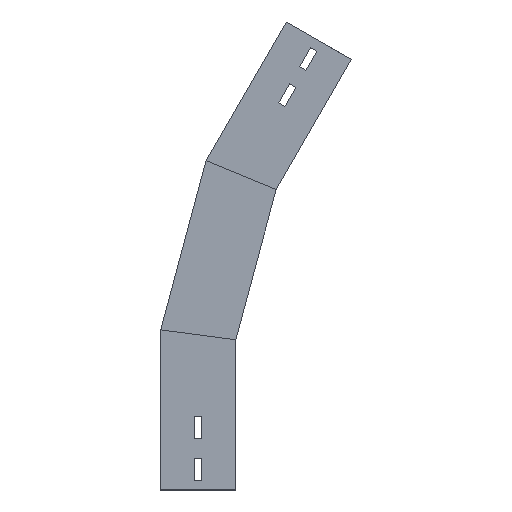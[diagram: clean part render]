
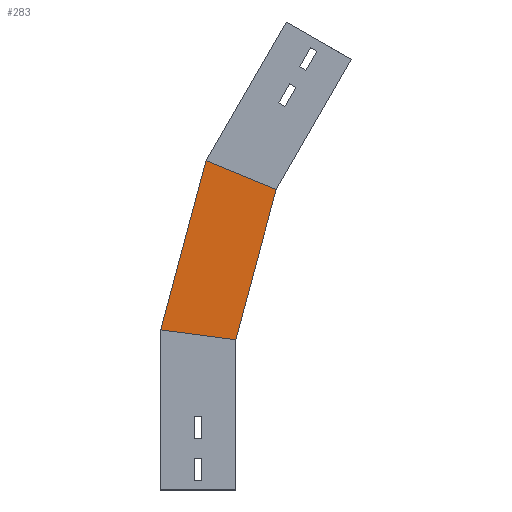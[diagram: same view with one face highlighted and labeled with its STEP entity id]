
A CAD part, left-side view. The second image highlights one B-rep face of the part: STEP entity #283.
In plain terms, the highlighted planar face has unit normal (-1, 0, 0) as drawn and (1, 0, 0) by its records, which use the part's own axes.
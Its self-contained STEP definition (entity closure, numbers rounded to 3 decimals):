
#3 = DIRECTION ( 'NONE',  ( 1., 0., 0. ) ) ;
#12 = PLANE ( 'NONE',  #602 ) ;
#85 = FACE_OUTER_BOUND ( 'NONE', #204, .T. ) ;
#165 = CARTESIAN_POINT ( 'NONE',  ( 0., -40.117, 299.719 ) ) ;
#182 = DIRECTION ( 'NONE',  ( 0., -0.924, -0.383 ) ) ;
#204 = EDGE_LOOP ( 'NONE', ( #1233, #959, #1413, #1138 ) ) ;
#236 = VECTOR ( 'NONE', #389, 1000. ) ;
#283 = ADVANCED_FACE ( 'NONE', ( #85 ), #12, .T. ) ;
#301 = CARTESIAN_POINT ( 'NONE',  ( 0., -60.13, 291.429 ) ) ;
#384 = VECTOR ( 'NONE', #539, 1000. ) ;
#389 = DIRECTION ( 'NONE',  ( 0., -0.991, -0.131 ) ) ;
#498 = CARTESIAN_POINT ( 'NONE',  ( 0., 0., 150. ) ) ;
#520 = VERTEX_POINT ( 'NONE', #165 ) ;
#539 = DIRECTION ( 'NONE',  ( 0., -0.259, 0.966 ) ) ;
#544 = EDGE_CURVE ( 'NONE', #667, #562, #733, .T. ) ;
#562 = VERTEX_POINT ( 'NONE', #498 ) ;
#602 = AXIS2_PLACEMENT_3D ( 'NONE', #1061, #3, #1161 ) ;
#667 = VERTEX_POINT ( 'NONE', #990 ) ;
#670 = CARTESIAN_POINT ( 'NONE',  ( 0., 75.281, 158.824 ) ) ;
#676 = EDGE_CURVE ( 'NONE', #667, #693, #1229, .T. ) ;
#693 = VERTEX_POINT ( 'NONE', #1110 ) ;
#701 = VECTOR ( 'NONE', #791, 1000. ) ;
#733 = LINE ( 'NONE', #1067, #236 ) ;
#791 = DIRECTION ( 'NONE',  ( 0., -0.259, 0.966 ) ) ;
#959 = ORIENTED_EDGE ( 'NONE', *, *, #1136, .T. ) ;
#990 = CARTESIAN_POINT ( 'NONE',  ( 0., 75., 159.874 ) ) ;
#1061 = CARTESIAN_POINT ( 'NONE',  ( 0., 2.837, 139.412 ) ) ;
#1067 = CARTESIAN_POINT ( 'NONE',  ( 0., -19.411, 147.444 ) ) ;
#1110 = CARTESIAN_POINT ( 'NONE',  ( 0., 29.772, 328.667 ) ) ;
#1123 = LINE ( 'NONE', #301, #1371 ) ;
#1136 = EDGE_CURVE ( 'NONE', #693, #520, #1123, .T. ) ;
#1138 = ORIENTED_EDGE ( 'NONE', *, *, #544, .F. ) ;
#1140 = LINE ( 'NONE', #1368, #701 ) ;
#1161 = DIRECTION ( 'NONE',  ( 0., 0., -1. ) ) ;
#1185 = EDGE_CURVE ( 'NONE', #562, #520, #1140, .T. ) ;
#1229 = LINE ( 'NONE', #670, #384 ) ;
#1233 = ORIENTED_EDGE ( 'NONE', *, *, #676, .T. ) ;
#1368 = CARTESIAN_POINT ( 'NONE',  ( 0., 2.837, 139.412 ) ) ;
#1371 = VECTOR ( 'NONE', #182, 1000. ) ;
#1413 = ORIENTED_EDGE ( 'NONE', *, *, #1185, .F. ) ;
